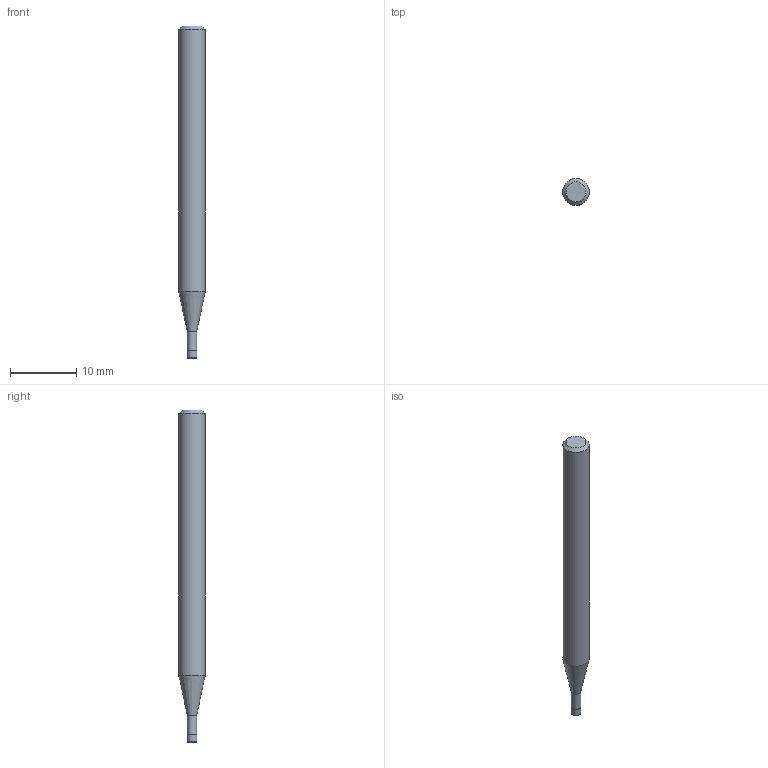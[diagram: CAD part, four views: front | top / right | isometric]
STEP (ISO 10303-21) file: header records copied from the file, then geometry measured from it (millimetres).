
FILE_DESCRIPTION((''),'2;1');
FILE_NAME('C:\Users\nsx150\AppData\Local\Temp\Mastercam 2021\3SYKECWX22\TEMP.step','2021-04-22T09:47:58',(''),(''),'STEP Write','Mastercam 2021 ... CNC Software, Inc.','');
FILE_SCHEMA(('AUTOMOTIVE_DESIGN'));
Length unit declared in the file: millimetre
Products named in the file (1): None
Bounding box: 4 x 4 x 50 mm (x, y, z)
Volume: 544.9 mm3; surface area: 586.6 mm2
Topology: 2 solids, 2 shells, 10 faces, 14 edges, 8 vertices
Faces by surface type: plane 4, cylinder 3, cone 2, torus 1
Full cylindrical faces by diameter (mm): 1.43 x1, 1.5 x1, 4 x1
Entity records: 232 total; most frequent: DIRECTION 40, CARTESIAN_POINT 28, AXIS2_PLACEMENT_3D 20, ORIENTED_EDGE 16, EDGE_LOOP 16, STYLED_ITEM 13, ADVANCED_FACE 10, FACE_BOUND 10
